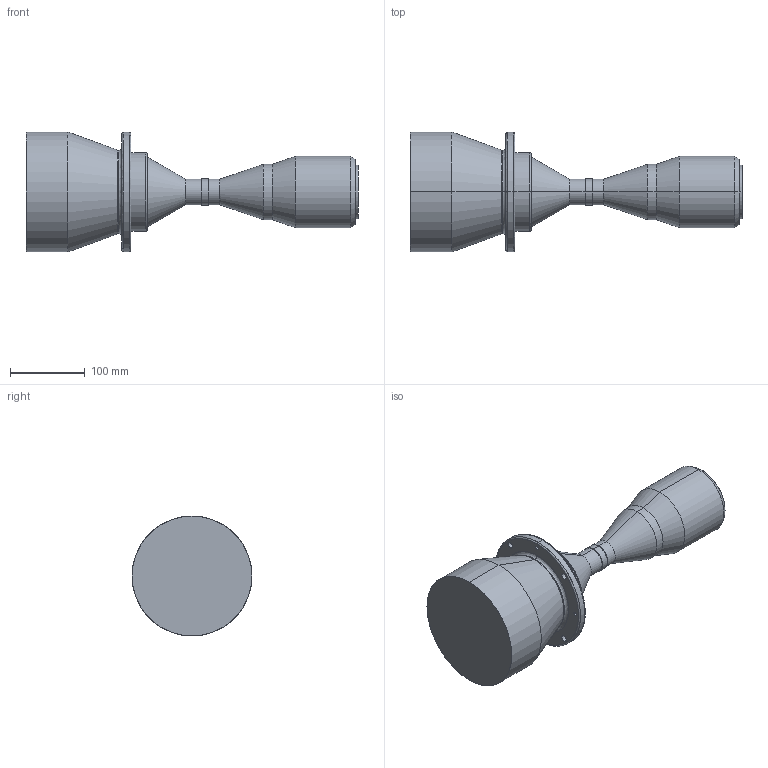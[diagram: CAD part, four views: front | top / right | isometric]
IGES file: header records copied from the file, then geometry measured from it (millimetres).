
Start section: SolidWorks IGES file using analytic representation for surfaces
Global section: file name: C:\Users\Administrator\Desktop\120H\DTCM16K-120H-AL\DTCM16K-120H-AL.IGS; native system: SolidWorks 2017; preprocessor: SolidWorks 2017; author: Administrator; date: 200117.174221; units: millimetre
Bounding box: 443.3 x 160 x 160 mm (x, y, z)
Surface area: 186841.9 mm2 (no closed solid volume)
Topology: 0 solids, 0 shells, 65 faces, 1760 edges, 1760 vertices
Faces by surface type: revolution 46, bspline 19
